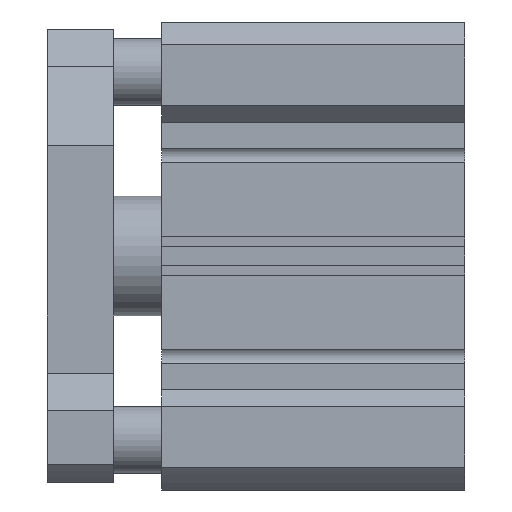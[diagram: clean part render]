
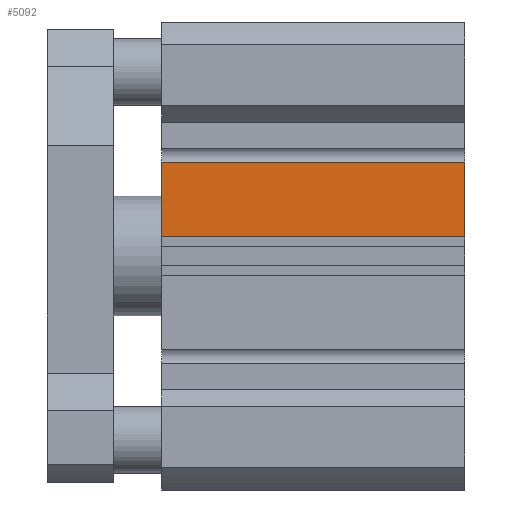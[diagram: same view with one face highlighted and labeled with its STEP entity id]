
A CAD part, front view. The second image highlights one B-rep face of the part: STEP entity #5092.
In plain terms, the highlighted planar face has unit normal (0, -1, 0).
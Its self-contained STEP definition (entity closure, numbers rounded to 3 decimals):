
#243 = PLANE ( 'NONE',  #818 ) ;
#465 = CARTESIAN_POINT ( 'NONE',  ( 0., -45.5, 19.5 ) ) ;
#481 = DIRECTION ( 'NONE',  ( 0., 0., -1. ) ) ;
#509 = LINE ( 'NONE', #2385, #4681 ) ;
#818 = AXIS2_PLACEMENT_3D ( 'NONE', #2119, #5079, #4100 ) ;
#861 = ORIENTED_EDGE ( 'NONE', *, *, #1741, .F. ) ;
#1326 = LINE ( 'NONE', #465, #3824 ) ;
#1372 = LINE ( 'NONE', #2325, #4140 ) ;
#1398 = ORIENTED_EDGE ( 'NONE', *, *, #3017, .T. ) ;
#1422 = DIRECTION ( 'NONE',  ( 0., 0., -1. ) ) ;
#1736 = EDGE_CURVE ( 'NONE', #2462, #4718, #5164, .T. ) ;
#1741 = EDGE_CURVE ( 'NONE', #4684, #2462, #1372, .T. ) ;
#1916 = CARTESIAN_POINT ( 'NONE',  ( 63.5, -45.5, 19.5 ) ) ;
#2119 = CARTESIAN_POINT ( 'NONE',  ( 63.5, -45.5, 19.5 ) ) ;
#2325 = CARTESIAN_POINT ( 'NONE',  ( 63.5, -45.5, 19.5 ) ) ;
#2385 = CARTESIAN_POINT ( 'NONE',  ( 63.5, -45.5, 19.5 ) ) ;
#2462 = VERTEX_POINT ( 'NONE', #2915 ) ;
#2590 = FACE_OUTER_BOUND ( 'NONE', #4565, .T. ) ;
#2849 = DIRECTION ( 'NONE',  ( -1., 0., 0. ) ) ;
#2915 = CARTESIAN_POINT ( 'NONE',  ( 63.5, -45.5, 4. ) ) ;
#3017 = EDGE_CURVE ( 'NONE', #4684, #3385, #509, .T. ) ;
#3385 = VERTEX_POINT ( 'NONE', #3410 ) ;
#3410 = CARTESIAN_POINT ( 'NONE',  ( 0., -45.5, 19.5 ) ) ;
#3824 = VECTOR ( 'NONE', #1422, 1000. ) ;
#4100 = DIRECTION ( 'NONE',  ( 1., 0., 0. ) ) ;
#4140 = VECTOR ( 'NONE', #481, 1000. ) ;
#4565 = EDGE_LOOP ( 'NONE', ( #5669, #5490, #861, #1398 ) ) ;
#4681 = VECTOR ( 'NONE', #5682, 1000. ) ;
#4684 = VERTEX_POINT ( 'NONE', #1916 ) ;
#4718 = VERTEX_POINT ( 'NONE', #6087 ) ;
#4926 = VECTOR ( 'NONE', #2849, 1000. ) ;
#5079 = DIRECTION ( 'NONE',  ( 0., 1., 0. ) ) ;
#5092 = ADVANCED_FACE ( 'NONE', ( #2590 ), #243, .F. ) ;
#5164 = LINE ( 'NONE', #5563, #4926 ) ;
#5490 = ORIENTED_EDGE ( 'NONE', *, *, #1736, .F. ) ;
#5563 = CARTESIAN_POINT ( 'NONE',  ( 63.5, -45.5, 4. ) ) ;
#5669 = ORIENTED_EDGE ( 'NONE', *, *, #5973, .T. ) ;
#5682 = DIRECTION ( 'NONE',  ( -1., 0., 0. ) ) ;
#5973 = EDGE_CURVE ( 'NONE', #3385, #4718, #1326, .T. ) ;
#6087 = CARTESIAN_POINT ( 'NONE',  ( 0., -45.5, 4. ) ) ;
